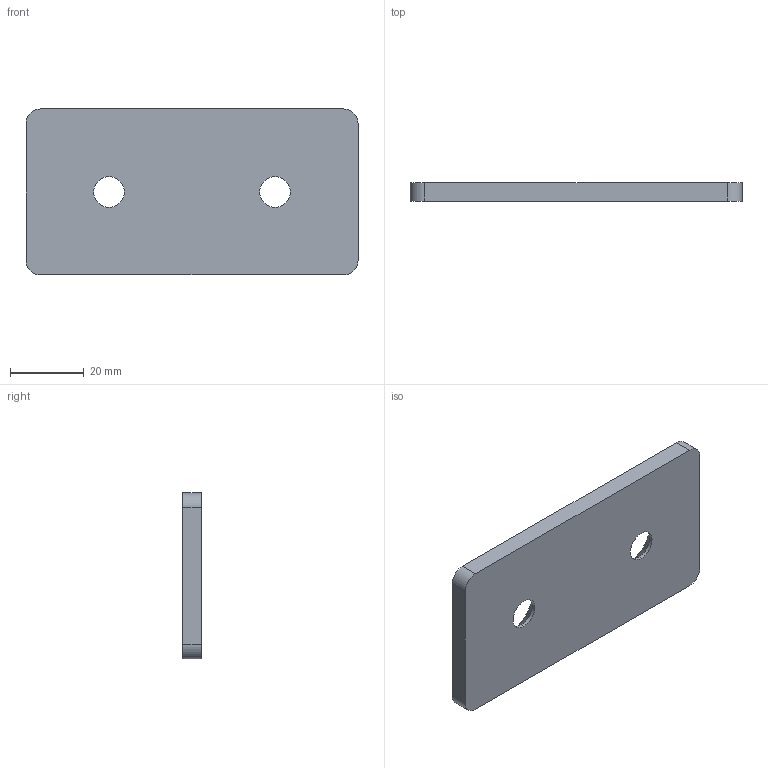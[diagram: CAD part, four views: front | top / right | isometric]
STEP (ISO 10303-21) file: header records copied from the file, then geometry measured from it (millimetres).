
FILE_DESCRIPTION (( 'STEP AP214' ), '1' );
FILE_NAME ('967-45-90-F-1-SW.step', '2023-06-26T09:08:52', ( '' ), ( '' ), 'SwSTEP 2.0', 'SolidWorks 2022', '' );
FILE_SCHEMA (( 'AUTOMOTIVE_DESIGN' ));
Length unit declared in the file: millimetre
Products named in the file (1): 967-45-90-F-1-SW
Bounding box: 90 x 5 x 45 mm (x, y, z)
Volume: 19057.6 mm3; surface area: 9351 mm2
Topology: 1 solids, 1 shells, 18 faces, 44 edges, 28 vertices
Faces by surface type: cylinder 8, plane 6, cone 4
Entity records: 578 total; most frequent: DIRECTION 102, CARTESIAN_POINT 91, ORIENTED_EDGE 88, EDGE_CURVE 44, AXIS2_PLACEMENT_3D 39, VERTEX_POINT 28, LINE 24, VECTOR 24
